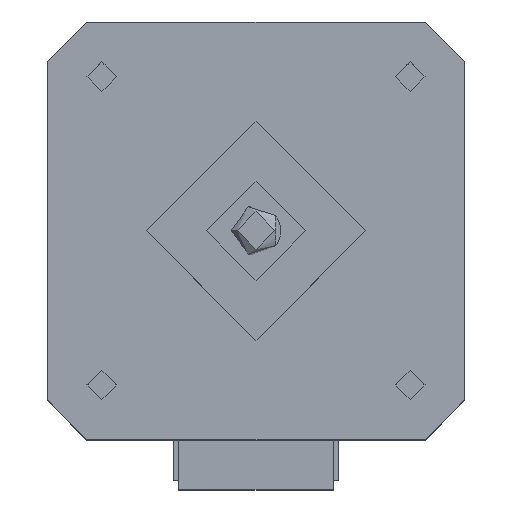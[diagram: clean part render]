
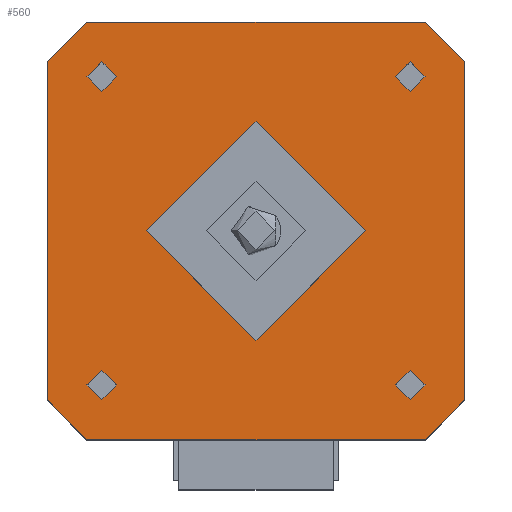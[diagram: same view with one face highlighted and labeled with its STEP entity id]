
A CAD part, top view. The second image highlights one B-rep face of the part: STEP entity #560.
In plain terms, the highlighted planar face has unit normal (0, 0, 1).
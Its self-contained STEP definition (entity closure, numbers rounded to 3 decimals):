
#372 = VERTEX_POINT('',#373);
#373 = CARTESIAN_POINT('',(-21.,17.,8.));
#379 = EDGE_CURVE('',#372,#380,#382,.T.);
#380 = VERTEX_POINT('',#381);
#381 = CARTESIAN_POINT('',(-21.,-17.,8.));
#382 = LINE('',#383,#384);
#383 = CARTESIAN_POINT('',(-21.,17.,8.));
#384 = VECTOR('',#385,1.);
#385 = DIRECTION('',(0.,-1.,0.));
#412 = VERTEX_POINT('',#413);
#413 = CARTESIAN_POINT('',(-17.,21.,8.));
#419 = EDGE_CURVE('',#412,#372,#420,.T.);
#420 = LINE('',#421,#422);
#421 = CARTESIAN_POINT('',(-17.,21.,8.));
#422 = VECTOR('',#423,1.);
#423 = DIRECTION('',(-0.707,-0.707,0.));
#441 = EDGE_CURVE('',#380,#442,#444,.T.);
#442 = VERTEX_POINT('',#443);
#443 = CARTESIAN_POINT('',(-17.,-21.,8.));
#444 = LINE('',#445,#446);
#445 = CARTESIAN_POINT('',(-21.,-17.,8.));
#446 = VECTOR('',#447,1.);
#447 = DIRECTION('',(0.707,-0.707,0.));
#560 = ADVANCED_FACE('',(#561,#604,#615,#626,#637,#648),#659,.T.);
#561 = FACE_BOUND('',#562,.T.);
#562 = EDGE_LOOP('',(#563,#564,#565,#573,#581,#589,#597,#603));
#563 = ORIENTED_EDGE('',*,*,#379,.T.);
#564 = ORIENTED_EDGE('',*,*,#441,.T.);
#565 = ORIENTED_EDGE('',*,*,#566,.T.);
#566 = EDGE_CURVE('',#442,#567,#569,.T.);
#567 = VERTEX_POINT('',#568);
#568 = CARTESIAN_POINT('',(17.,-21.,8.));
#569 = LINE('',#570,#571);
#570 = CARTESIAN_POINT('',(-17.,-21.,8.));
#571 = VECTOR('',#572,1.);
#572 = DIRECTION('',(1.,0.,0.));
#573 = ORIENTED_EDGE('',*,*,#574,.T.);
#574 = EDGE_CURVE('',#567,#575,#577,.T.);
#575 = VERTEX_POINT('',#576);
#576 = CARTESIAN_POINT('',(21.,-17.,8.));
#577 = LINE('',#578,#579);
#578 = CARTESIAN_POINT('',(17.,-21.,8.));
#579 = VECTOR('',#580,1.);
#580 = DIRECTION('',(0.707,0.707,0.));
#581 = ORIENTED_EDGE('',*,*,#582,.T.);
#582 = EDGE_CURVE('',#575,#583,#585,.T.);
#583 = VERTEX_POINT('',#584);
#584 = CARTESIAN_POINT('',(21.,17.,8.));
#585 = LINE('',#586,#587);
#586 = CARTESIAN_POINT('',(21.,-17.,8.));
#587 = VECTOR('',#588,1.);
#588 = DIRECTION('',(0.,1.,0.));
#589 = ORIENTED_EDGE('',*,*,#590,.T.);
#590 = EDGE_CURVE('',#583,#591,#593,.T.);
#591 = VERTEX_POINT('',#592);
#592 = CARTESIAN_POINT('',(17.,21.,8.));
#593 = LINE('',#594,#595);
#594 = CARTESIAN_POINT('',(21.,17.,8.));
#595 = VECTOR('',#596,1.);
#596 = DIRECTION('',(-0.707,0.707,0.));
#597 = ORIENTED_EDGE('',*,*,#598,.T.);
#598 = EDGE_CURVE('',#591,#412,#599,.T.);
#599 = LINE('',#600,#601);
#600 = CARTESIAN_POINT('',(17.,21.,8.));
#601 = VECTOR('',#602,1.);
#602 = DIRECTION('',(-1.,0.,0.));
#603 = ORIENTED_EDGE('',*,*,#419,.T.);
#604 = FACE_BOUND('',#605,.T.);
#605 = EDGE_LOOP('',(#606));
#606 = ORIENTED_EDGE('',*,*,#607,.F.);
#607 = EDGE_CURVE('',#608,#608,#610,.T.);
#608 = VERTEX_POINT('',#609);
#609 = CARTESIAN_POINT('',(-14.,-15.5,8.));
#610 = CIRCLE('',#611,1.5);
#611 = AXIS2_PLACEMENT_3D('',#612,#613,#614);
#612 = CARTESIAN_POINT('',(-15.5,-15.5,8.));
#613 = DIRECTION('',(0.,0.,1.));
#614 = DIRECTION('',(1.,0.,0.));
#615 = FACE_BOUND('',#616,.T.);
#616 = EDGE_LOOP('',(#617));
#617 = ORIENTED_EDGE('',*,*,#618,.F.);
#618 = EDGE_CURVE('',#619,#619,#621,.T.);
#619 = VERTEX_POINT('',#620);
#620 = CARTESIAN_POINT('',(17.,-15.5,8.));
#621 = CIRCLE('',#622,1.5);
#622 = AXIS2_PLACEMENT_3D('',#623,#624,#625);
#623 = CARTESIAN_POINT('',(15.5,-15.5,8.));
#624 = DIRECTION('',(0.,0.,1.));
#625 = DIRECTION('',(1.,0.,0.));
#626 = FACE_BOUND('',#627,.T.);
#627 = EDGE_LOOP('',(#628));
#628 = ORIENTED_EDGE('',*,*,#629,.F.);
#629 = EDGE_CURVE('',#630,#630,#632,.T.);
#630 = VERTEX_POINT('',#631);
#631 = CARTESIAN_POINT('',(-14.,15.5,8.));
#632 = CIRCLE('',#633,1.5);
#633 = AXIS2_PLACEMENT_3D('',#634,#635,#636);
#634 = CARTESIAN_POINT('',(-15.5,15.5,8.));
#635 = DIRECTION('',(0.,0.,1.));
#636 = DIRECTION('',(1.,0.,0.));
#637 = FACE_BOUND('',#638,.T.);
#638 = EDGE_LOOP('',(#639));
#639 = ORIENTED_EDGE('',*,*,#640,.F.);
#640 = EDGE_CURVE('',#641,#641,#643,.T.);
#641 = VERTEX_POINT('',#642);
#642 = CARTESIAN_POINT('',(11.,0.,8.));
#643 = CIRCLE('',#644,11.);
#644 = AXIS2_PLACEMENT_3D('',#645,#646,#647);
#645 = CARTESIAN_POINT('',(0.,0.,8.));
#646 = DIRECTION('',(0.,0.,1.));
#647 = DIRECTION('',(1.,0.,0.));
#648 = FACE_BOUND('',#649,.T.);
#649 = EDGE_LOOP('',(#650));
#650 = ORIENTED_EDGE('',*,*,#651,.F.);
#651 = EDGE_CURVE('',#652,#652,#654,.T.);
#652 = VERTEX_POINT('',#653);
#653 = CARTESIAN_POINT('',(17.,15.5,8.));
#654 = CIRCLE('',#655,1.5);
#655 = AXIS2_PLACEMENT_3D('',#656,#657,#658);
#656 = CARTESIAN_POINT('',(15.5,15.5,8.));
#657 = DIRECTION('',(0.,0.,1.));
#658 = DIRECTION('',(1.,0.,0.));
#659 = PLANE('',#660);
#660 = AXIS2_PLACEMENT_3D('',#661,#662,#663);
#661 = CARTESIAN_POINT('',(0.,0.,8.));
#662 = DIRECTION('',(0.,0.,1.));
#663 = DIRECTION('',(1.,0.,0.));
